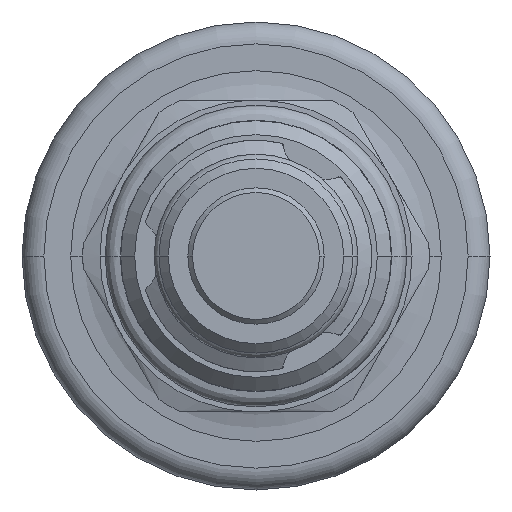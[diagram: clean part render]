
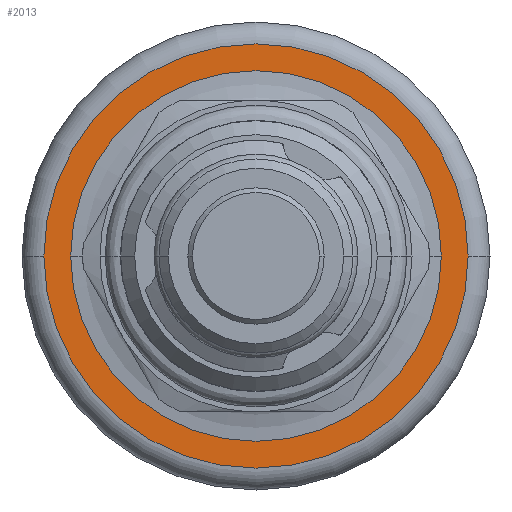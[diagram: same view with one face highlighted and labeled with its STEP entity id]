
A CAD part, front view. The second image highlights one B-rep face of the part: STEP entity #2013.
In plain terms, the highlighted planar face has unit normal (0, -1, 0).
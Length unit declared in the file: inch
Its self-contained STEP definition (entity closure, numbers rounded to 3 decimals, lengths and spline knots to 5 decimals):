
#165=CARTESIAN_POINT('',(0.,3.5155,0.));
#166=DIRECTION('',(0.,1.,0.));
#167=DIRECTION('',(-1.,0.,0.));
#168=AXIS2_PLACEMENT_3D('',#165,#166,#167);
#180=CARTESIAN_POINT('',(0.,3.5155,0.));
#181=DIRECTION('',(0.,-1.,0.));
#182=DIRECTION('',(-1.,0.,0.));
#183=AXIS2_PLACEMENT_3D('',#180,#181,#182);
#185=CARTESIAN_POINT('',(0.,3.5155,0.));
#186=DIRECTION('',(0.,1.,0.));
#187=DIRECTION('',(-1.,0.,0.));
#188=AXIS2_PLACEMENT_3D('',#185,#186,#187);
#190=CARTESIAN_POINT('',(0.,3.5155,0.));
#191=DIRECTION('',(0.,-1.,0.));
#192=DIRECTION('',(-1.,0.,0.));
#193=AXIS2_PLACEMENT_3D('',#190,#191,#192);
#1699=CARTESIAN_POINT('',(-0.68,3.5155,0.));
#1701=VERTEX_POINT('',#1699);
#1702=CARTESIAN_POINT('',(-0.594,3.5155,0.));
#1704=VERTEX_POINT('',#1702);
#1709=CARTESIAN_POINT('',(0.68,3.5155,0.));
#1711=VERTEX_POINT('',#1709);
#1712=CARTESIAN_POINT('',(0.594,3.5155,0.));
#1714=VERTEX_POINT('',#1712);
#1998=CARTESIAN_POINT('',(0.,3.5155,0.));
#1999=DIRECTION('',(0.,1.,0.));
#2000=DIRECTION('',(1.,0.,0.));
#2001=AXIS2_PLACEMENT_3D('',#1998,#1999,#2000);
#2002=PLANE('',#2001);
#2004=ORIENTED_EDGE('',*,*,#2003,.T.);
#2006=ORIENTED_EDGE('',*,*,#2005,.F.);
#2007=EDGE_LOOP('',(#2004,#2006));
#2008=FACE_OUTER_BOUND('',#2007,.F.);
#2009=ORIENTED_EDGE('',*,*,#1993,.T.);
#2010=ORIENTED_EDGE('',*,*,#1977,.F.);
#2011=EDGE_LOOP('',(#2009,#2010));
#2012=FACE_BOUND('',#2011,.F.);
#2013=ADVANCED_FACE('',(#2008,#2012),#2002,.F.);
#169=CIRCLE('',#168,0.594);
#184=CIRCLE('',#183,0.594);
#189=CIRCLE('',#188,0.68);
#194=CIRCLE('',#193,0.68);
#1977=EDGE_CURVE('',#1704,#1714,#169,.T.);
#1993=EDGE_CURVE('',#1704,#1714,#184,.T.);
#2003=EDGE_CURVE('',#1701,#1711,#189,.T.);
#2005=EDGE_CURVE('',#1701,#1711,#194,.T.);
